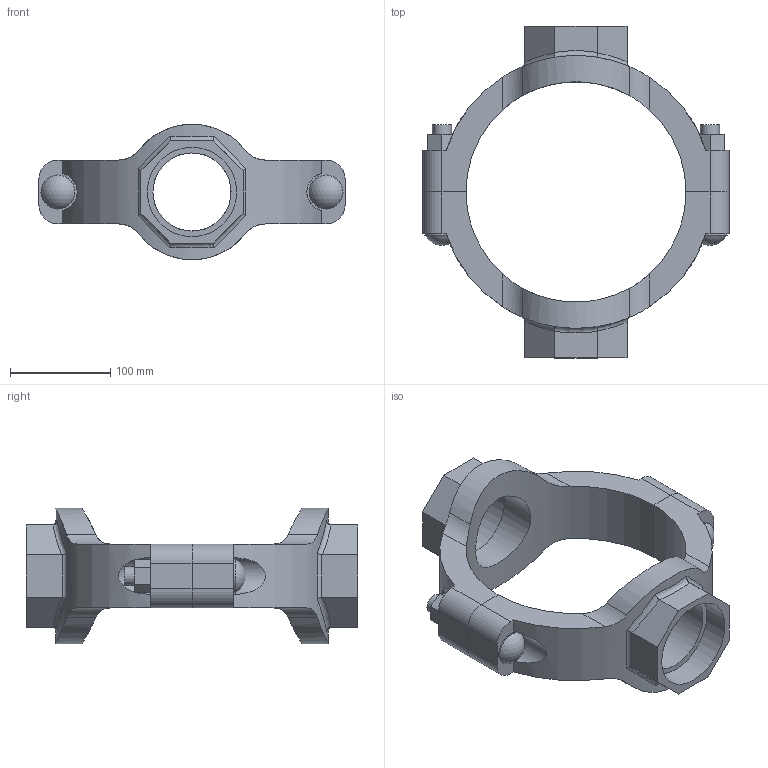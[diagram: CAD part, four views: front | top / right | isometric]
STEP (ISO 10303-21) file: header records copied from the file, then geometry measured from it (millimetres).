
FILE_DESCRIPTION(/* description */ ('VIC MECH-T BRANCH OUTLET CROSS STYLE 920N (THD)','CAx-IF Rec.Pracs.---Representation and Presentation of Product Manufacturing Information (PMI)---4.0---2014-10-13'),/* implementation_level */ '2;1');
FILE_NAME(/* name */ 'C:\Users\Vjadhav\AppData\Roaming\Autodesk\ApplicationPlugins\Back Up\Victaulic_IPS_Mechanical-Cross Outlet_Style 920N (FPT)\Victaulic_IPS_Mechanical-Cross Outlet_08.0x03.0x03.0 (200x80x80).stp',/* time_stamp */ '2020-08-06T19:01:10+06:00',/* author */ ('Vjadhav'),/* organization */ ('Victaulic'),/* preprocessor_version */ 'ST-DEVELOPER v17.2',/* originating_system */ 'Autodesk Inventor 2019',/* authorisation */ '');
FILE_SCHEMA (('AP242_MANAGED_MODEL_BASED_3D_ENGINEERING_MIM_LF { 1 0 10303 442 1 1 4 }'));
Length unit declared in the file: inch
Products named in the file (3): 920NT-08.0x03.0x03.0; 920T-08.0x03.0; 920T-08.0x03.0_1
Assembly tree (2 placements, depth 2):
  920NT-08.0x03.0x03.0
    920T-08.0x03.0
    920T-08.0x03.0_1
Bounding box: 304.8 x 330.2 x 134.87 mm (x, y, z)
Volume: 1687327.2 mm3; surface area: 249808.4 mm2
Topology: 2 solids, 2 shells, 132 faces, 350 edges, 236 vertices
Faces by surface type: plane 68, cylinder 50, bspline 8, torus 4, sphere 2
Full cylindrical faces by diameter (mm): 19.05 x4, 33.843 x2, 77.787 x2, 88.9 x2
Entity records: 5262 total; most frequent: CARTESIAN_POINT 1749, ORIENTED_EDGE 700, DIRECTION 648, EDGE_CURVE 350, VERTEX_POINT 236, AXIS2_PLACEMENT_3D 231, LINE 186, VECTOR 186
